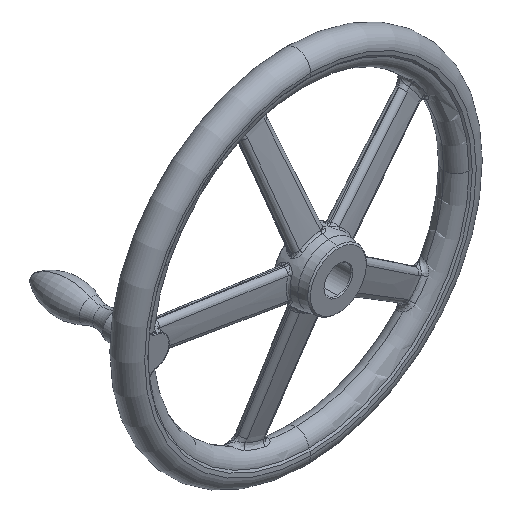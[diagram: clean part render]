
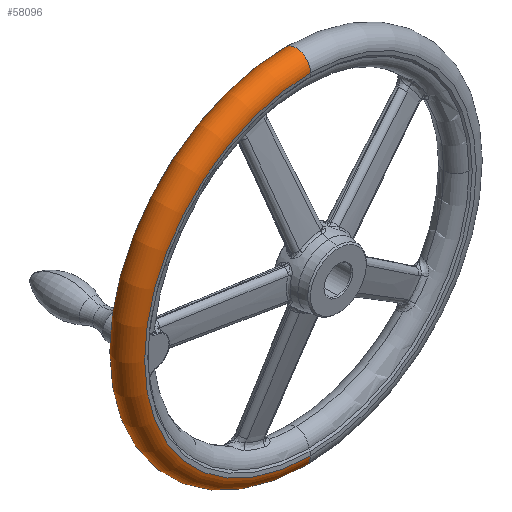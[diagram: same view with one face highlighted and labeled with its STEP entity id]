
A CAD part, isometric view. The second image highlights one B-rep face of the part: STEP entity #58096.
In plain terms, the highlighted toroidal (fillet/blend) face has major radius 184 mm and minor radius 16 mm.
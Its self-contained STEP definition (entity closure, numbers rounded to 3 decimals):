
#16201 = CIRCLE ( 'NONE', #16233, 16. ) ;
#16233 = AXIS2_PLACEMENT_3D ( 'NONE', #16242, #16241, #16237 ) ;
#16237 = DIRECTION ( 'NONE',  ( 0., 0., -1. ) ) ;
#16241 = DIRECTION ( 'NONE',  ( 1., 0., 0. ) ) ;
#16242 = CARTESIAN_POINT ( 'NONE',  ( 0., 47., 184. ) ) ;
#24007 = CARTESIAN_POINT ( 'NONE',  ( 0., 63., 184. ) ) ;
#24339 = CARTESIAN_POINT ( 'NONE',  ( 0., 63., -184. ) ) ;
#24595 = DIRECTION ( 'NONE',  ( 0., 0., -1. ) ) ;
#24597 = DIRECTION ( 'NONE',  ( 0., -1., 0. ) ) ;
#24598 = CARTESIAN_POINT ( 'NONE',  ( 0., 63., 0. ) ) ;
#24600 = AXIS2_PLACEMENT_3D ( 'NONE', #24598, #24597, #24595 ) ;
#24625 = CIRCLE ( 'NONE', #24600, 184. ) ;
#24762 = DIRECTION ( 'NONE',  ( 0., 0., -1. ) ) ;
#24763 = DIRECTION ( 'NONE',  ( 0., -1., 0. ) ) ;
#24764 = CARTESIAN_POINT ( 'NONE',  ( 0., 31., 0. ) ) ;
#24793 = CIRCLE ( 'NONE', #24798, 184. ) ;
#24798 = AXIS2_PLACEMENT_3D ( 'NONE', #24764, #24763, #24762 ) ;
#24827 = DIRECTION ( 'NONE',  ( 0., 0., 1. ) ) ;
#24856 = DIRECTION ( 'NONE',  ( -1., 0., 0. ) ) ;
#24868 = CARTESIAN_POINT ( 'NONE',  ( 0., 47., -184. ) ) ;
#24876 = AXIS2_PLACEMENT_3D ( 'NONE', #24868, #24856, #24827 ) ;
#24909 = CARTESIAN_POINT ( 'NONE',  ( 0., 31., 184. ) ) ;
#24974 = CIRCLE ( 'NONE', #24876, 16. ) ;
#25058 = CARTESIAN_POINT ( 'NONE',  ( 0., 31., -184. ) ) ;
#44714 = EDGE_CURVE ( 'NONE', #45655, #45815, #16201, .T. ) ;
#45655 = VERTEX_POINT ( 'NONE', #24007 ) ;
#45688 = VERTEX_POINT ( 'NONE', #24339 ) ;
#45753 = EDGE_CURVE ( 'NONE', #45655, #45688, #24625, .T. ) ;
#45783 = EDGE_CURVE ( 'NONE', #45815, #45814, #24793, .T. ) ;
#45799 = EDGE_CURVE ( 'NONE', #45688, #45814, #24974, .T. ) ;
#45814 = VERTEX_POINT ( 'NONE', #25058 ) ;
#45815 = VERTEX_POINT ( 'NONE', #24909 ) ;
#53723 = TOROIDAL_SURFACE ( 'NONE', #53727, 184., 16. ) ;
#53724 = FACE_OUTER_BOUND ( 'NONE', #58075, .T. ) ;
#53725 = DIRECTION ( 'NONE',  ( 0., 0., -1. ) ) ;
#53727 = AXIS2_PLACEMENT_3D ( 'NONE', #53756, #53736, #53725 ) ;
#53736 = DIRECTION ( 'NONE',  ( 0., -1., 0. ) ) ;
#53756 = CARTESIAN_POINT ( 'NONE',  ( 0., 47., 0. ) ) ;
#57220 = ORIENTED_EDGE ( 'NONE', *, *, #45753, .T. ) ;
#58075 = EDGE_LOOP ( 'NONE', ( #58086, #57220, #58106, #58104 ) ) ;
#58086 = ORIENTED_EDGE ( 'NONE', *, *, #44714, .F. ) ;
#58096 = ADVANCED_FACE ( 'NONE', ( #53724 ), #53723, .T. ) ;
#58104 = ORIENTED_EDGE ( 'NONE', *, *, #45783, .F. ) ;
#58106 = ORIENTED_EDGE ( 'NONE', *, *, #45799, .T. ) ;
